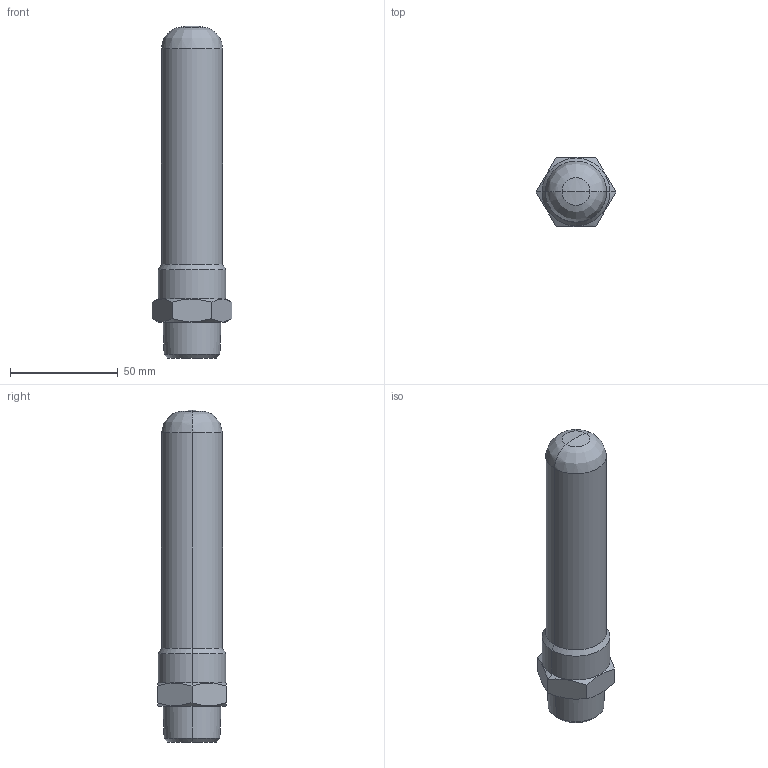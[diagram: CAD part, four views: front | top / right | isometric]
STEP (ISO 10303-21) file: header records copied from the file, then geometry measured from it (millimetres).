
FILE_DESCRIPTION( (''), '2;1');
FILE_NAME ('PC1027.11244.WP-1　20A_30057.stp','2025-07-25T15:03:49',(''),(''),'spGate 19.8.4 (****-****-****-****)','','');
FILE_SCHEMA (('AUTOMOTIVE_DESIGN'));
Length unit declared in the file: millimetre
Bounding box: 36.95 x 32 x 154 mm (x, y, z)
Volume: 98418.9 mm3; surface area: 14933.6 mm2
Topology: 1 solids, 1 shells, 26 faces, 56 edges, 31 vertices
Faces by surface type: bspline 12, plane 8, cylinder 4, sphere 2
Entity records: 1333 total; most frequent: CARTESIAN_POINT 411, ORIENTED_EDGE 108, COLOUR_RGB 81, PRESENTATION_STYLE_ASSIGNMENT 81, STYLED_ITEM 81, DIRECTION 70, EDGE_CURVE 54, DRAUGHTING_PRE_DEFINED_CURVE_FONT 54
